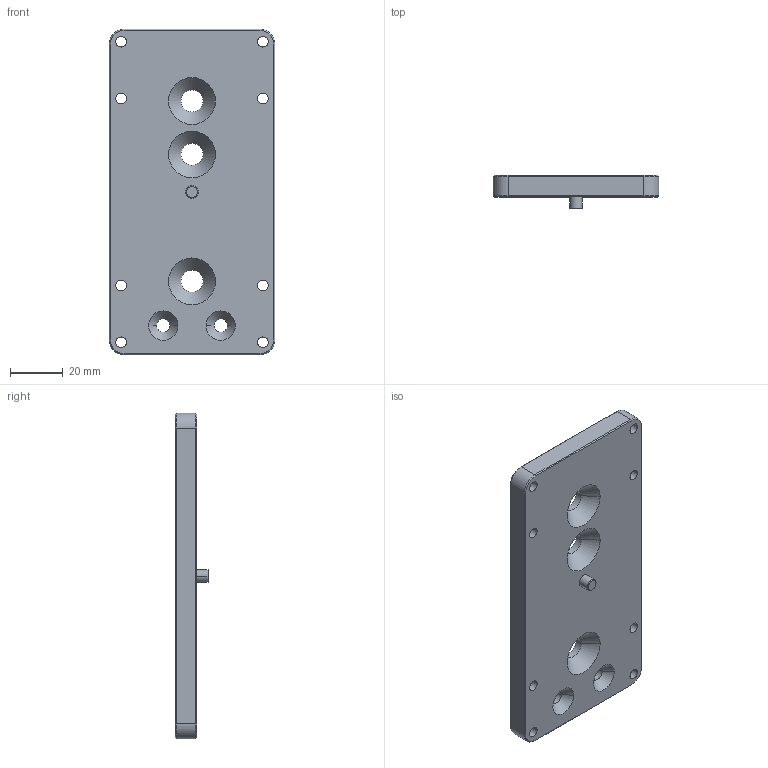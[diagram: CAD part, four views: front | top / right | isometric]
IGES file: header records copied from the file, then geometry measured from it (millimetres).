
Global section: file name: No Iges File Name specified; native system: Autodesk Inventor 2010; preprocessor: AutoDesk Inventor Iges Exporter R2010; author: mlampen; date: 20170424.124816; units: inch
Bounding box: 62.99 x 12.7 x 123.83 mm (x, y, z)
Volume: 59069.4 mm3; surface area: 19365.8 mm2
Topology: 1 solids, 1 shells, 72 faces, 174 edges, 106 vertices
Faces by surface type: revolution 38, plane 16, cone 12, cylinder 6
